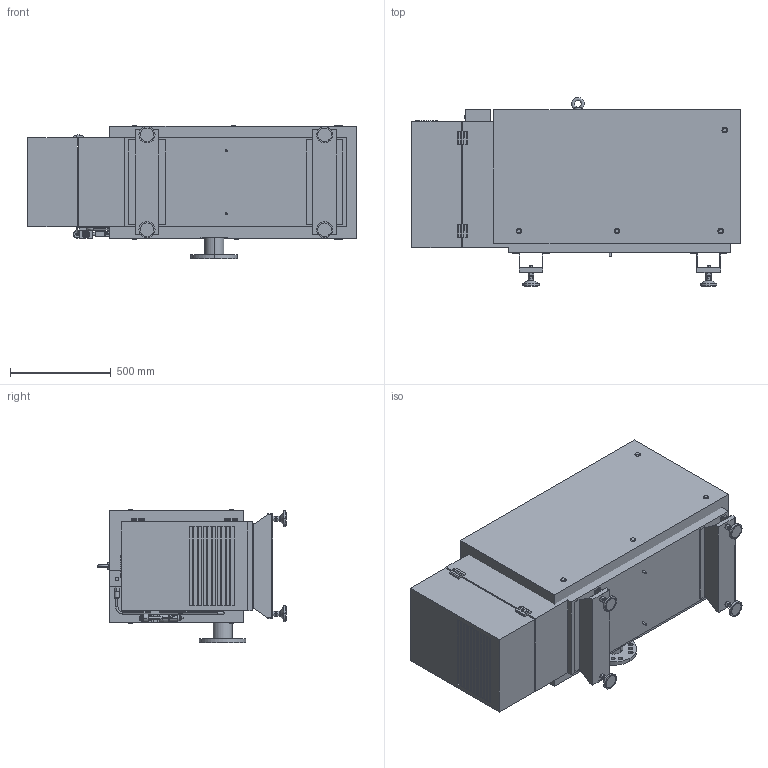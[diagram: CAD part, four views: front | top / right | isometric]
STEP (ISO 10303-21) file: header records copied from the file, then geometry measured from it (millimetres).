
FILE_DESCRIPTION((''),'2;1');
FILE_NAME('130002006_Y19_000_ASM','2015-02-19T',('L0107180'),('Copyright by Leybold GmbH'),'PRO/ENGINEER BY PARAMETRIC TECHNOLOGY CORPORATION, 2013410','PRO/ENGINEER BY PARAMETRIC TECHNOLOGY CORPORATION, 2013410','');
FILE_SCHEMA(('AUTOMOTIVE_DESIGN { 1 0 10303 214 1 1 1 1 }'));
Length unit declared in the file: millimetre
Products named in the file (8): PUMPE; VERKLEIDUNG; SPGUARD; LUFTGEKUEHLT; SPERRGASEINHEIT_V02_V03; 300541178_Y19_000; 300541182_Y19_000; 130002006_Y19_000_ASM
Assembly tree (10 placements, depth 2):
  130002006_Y19_000_ASM
    PUMPE
    VERKLEIDUNG
    SPGUARD
    LUFTGEKUEHLT
    SPERRGASEINHEIT_V02_V03
    300541178_Y19_000
    300541182_Y19_000  x4
Bounding box: 1627 x 934.6 x 659.5 mm (x, y, z)
Volume: 846949580.1 mm3; surface area: 9495330.7 mm2
Topology: 12 solids, 12 shells, 832 faces, 2037 edges, 1328 vertices
Faces by surface type: plane 512, cylinder 243, cone 55, torus 10, sphere 8, revolution 4
Entity records: 22981 total; most frequent: CARTESIAN_POINT 4866, DIRECTION 3717, ORIENTED_EDGE 3570, EDGE_CURVE 1785, VECTOR 1241, LINE 1241, AXIS2_PLACEMENT_3D 1236, VERTEX_POINT 1166
